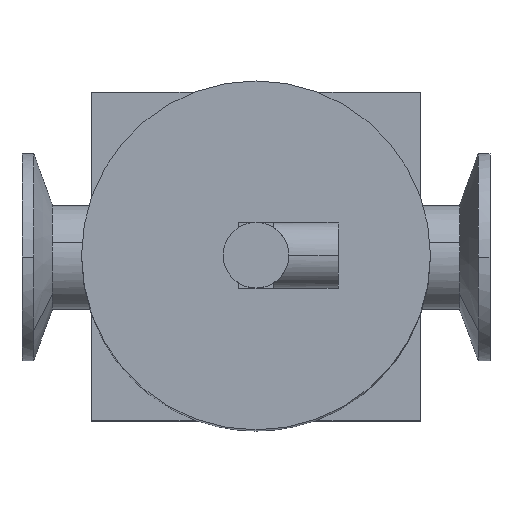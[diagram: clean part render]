
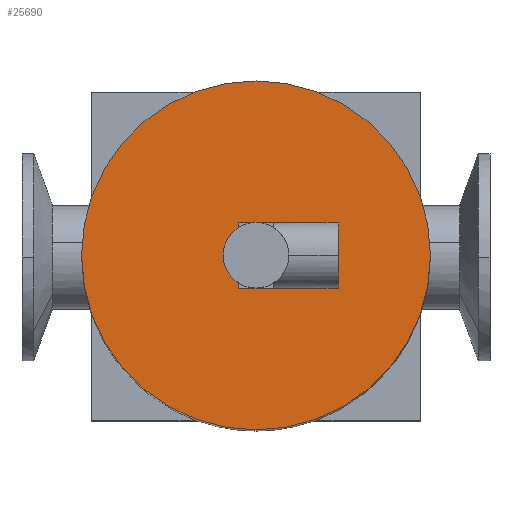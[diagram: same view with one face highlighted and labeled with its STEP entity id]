
A CAD part, top view. The second image highlights one B-rep face of the part: STEP entity #25690.
In plain terms, the highlighted planar face has unit normal (0, 0, 1) as drawn and (0, -0.707, -0.707) by its records, which use the part's own axes.
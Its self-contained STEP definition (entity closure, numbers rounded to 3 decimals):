
#24800=CARTESIAN_POINT('',(-17.,-211.425,
-151.321));
#24810=VERTEX_POINT('',#24800);
#25000=CARTESIAN_POINT('',(-17.,-151.321,
-211.425));
#25010=VERTEX_POINT('',#25000);
#25040=CARTESIAN_POINT('',(-17.,-181.373,
-181.373));
#25050=DIRECTION('',(0.,-0.707,
-0.707));
#25060=DIRECTION('',(0.,-0.707,
0.707));
#25070=AXIS2_PLACEMENT_3D('',#25040,#25050,#25060);
#25080=CIRCLE('',#25070,42.5);
#25090=EDGE_CURVE('',#25010,#24810,#25080,.T.);
#25440=CARTESIAN_POINT('',(-17.,-196.399,
-166.347));
#25450=DIRECTION('',(0.,0.707,
0.707));
#25460=DIRECTION('',(0.,-0.707,
0.707));
#25470=AXIS2_PLACEMENT_3D('',#25440,#25450,#25460);
#25480=PLANE('',#25470);
#25490=CARTESIAN_POINT('',(-17.,-181.373,
-181.373));
#25500=DIRECTION('',(0.,-0.707,
-0.707));
#25510=DIRECTION('',(1.,0.,0.));
#25520=AXIS2_PLACEMENT_3D('',#25490,#25500,#25510);
#25530=CIRCLE('',#25520,8.);
#25540=CARTESIAN_POINT('',(-25.,-181.373,
-181.373));
#25550=VERTEX_POINT('',#25540);
#25560=CARTESIAN_POINT('',(-9.,-181.373,
-181.373));
#25570=VERTEX_POINT('',#25560);
#25580=EDGE_CURVE('',#25550,#25570,#25530,.T.);
#25590=ORIENTED_EDGE('',*,*,#25580,.F.);
#25600=EDGE_CURVE('',#25570,#25550,#25530,.T.);
#25610=ORIENTED_EDGE('',*,*,#25600,.F.);
#25620=EDGE_LOOP('',(#25610,#25590));
#25630=FACE_BOUND('',#25620,.T.);
#25640=EDGE_CURVE('',#24810,#25010,#25080,.T.);
#25650=ORIENTED_EDGE('',*,*,#25640,.T.);
#25660=ORIENTED_EDGE('',*,*,#25090,.T.);
#25670=EDGE_LOOP('',(#25660,#25650));
#25680=FACE_OUTER_BOUND('',#25670,.T.);
#25690=ADVANCED_FACE('',(#25630,#25680),#25480,.F.);
